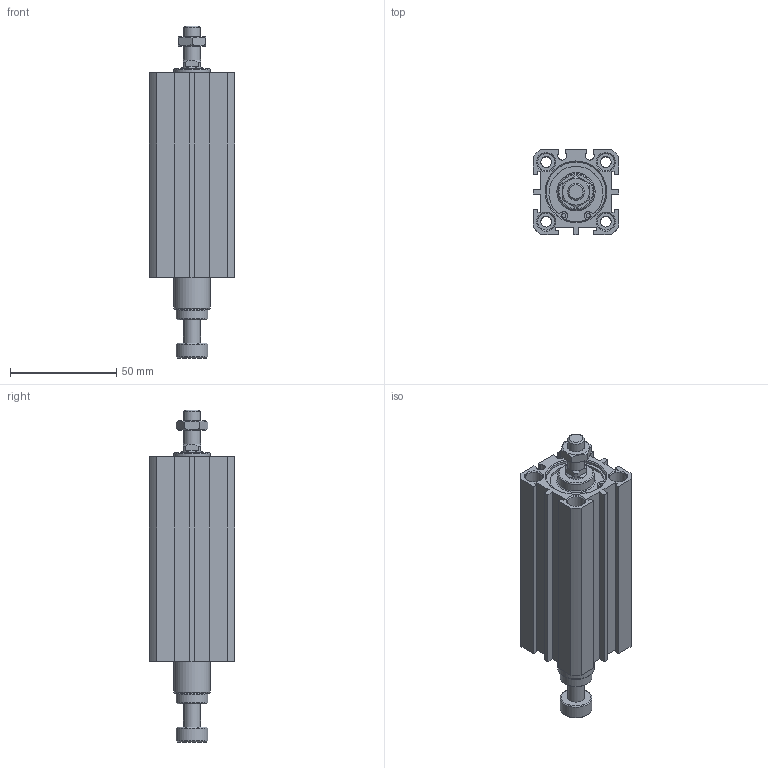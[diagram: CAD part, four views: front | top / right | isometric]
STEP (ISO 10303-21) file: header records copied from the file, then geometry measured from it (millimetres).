
FILE_DESCRIPTION((''),'2;1');
FILE_NAME('I:\3D電子目錄\氣缸\JDAR\JDAR-BS\JDAR25-BS\JDAR25x65-BS.stp','2007-05-05T11:20:24',('662F206'),(''),'Autodesk Inventor 11','Autodesk Inventor 11','');
FILE_SCHEMA(('AUTOMOTIVE_DESIGN { 1 0 10303 214 1 1 1 1 }'));
Length unit declared in the file: millimetre
Products named in the file (3): JDAR25-BS; R 形環 28
Assembly tree (3 placements, depth 2):
  JDAR25-BS
    JDAR25-BS
    R 形環 28  x2
Bounding box: 40 x 40 x 156.1 mm (x, y, z)
Volume: 130177.4 mm3; surface area: 36450.9 mm2
Topology: 3 solids, 3 shells, 175 faces, 406 edges, 263 vertices
Faces by surface type: plane 94, cylinder 50, cone 23, bspline 6, torus 2
Full cylindrical faces by diameter (mm): 1.5 x2, 1.9 x4, 5.1 x4, 8 x11, 10 x1, 15 x2, 17 x2, 28 x4, 29.4 x2
Entity records: 4479 total; most frequent: CARTESIAN_POINT 889, DIRECTION 742, ORIENTED_EDGE 630, EDGE_CURVE 315, AXIS2_PLACEMENT_3D 284, EDGE_LOOP 256, VERTEX_POINT 237, VECTOR 174
